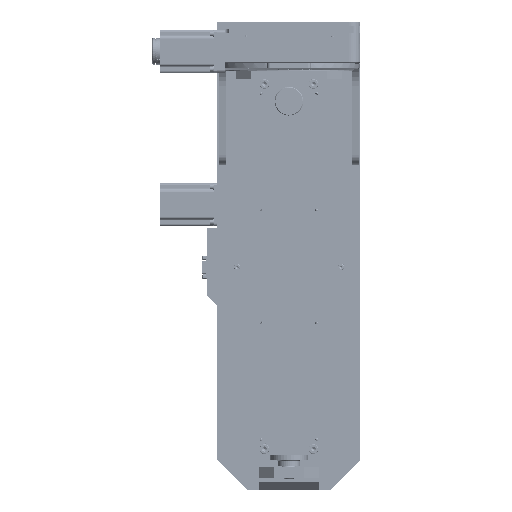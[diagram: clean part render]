
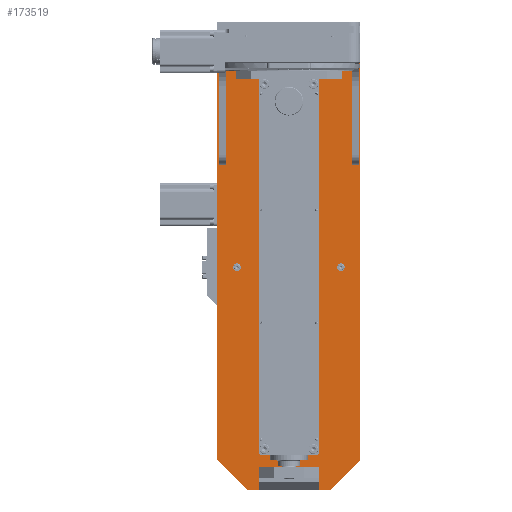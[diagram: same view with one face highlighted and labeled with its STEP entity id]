
A CAD part, top view. The second image highlights one B-rep face of the part: STEP entity #173519.
In plain terms, the highlighted planar face has unit normal (0, 0, 1).
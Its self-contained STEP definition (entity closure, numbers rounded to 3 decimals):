
#5255=LINE($,#263266,#15362);
#5260=LINE($,#263277,#15367);
#5266=LINE($,#263291,#15373);
#5275=LINE($,#263319,#15382);
#5280=LINE($,#263330,#15387);
#5286=LINE($,#263344,#15393);
#5287=LINE($,#263346,#15394);
#5288=LINE($,#263348,#15395);
#5292=LINE($,#263359,#15399);
#5331=LINE($,#263719,#15438);
#5334=LINE($,#263725,#15441);
#5344=LINE($,#263788,#15451);
#5348=LINE($,#263795,#15455);
#7638=LINE($,#288612,#17745);
#7941=LINE($,#291645,#18048);
#10201=LINE($,#314927,#20308);
#10209=LINE($,#314941,#20316);
#10210=LINE($,#314943,#20317);
#15362=VECTOR($,#207066,175.);
#15367=VECTOR($,#207077,10.);
#15373=VECTOR($,#207093,175.);
#15382=VECTOR($,#207116,175.);
#15387=VECTOR($,#207127,10.);
#15393=VECTOR($,#207143,175.);
#15394=VECTOR($,#207146,167.);
#15395=VECTOR($,#207147,1.5);
#15399=VECTOR($,#207155,1.5);
#15438=VECTOR($,#207518,56.569);
#15441=VECTOR($,#207523,56.569);
#15451=VECTOR($,#207591,15.);
#15455=VECTOR($,#207595,15.);
#17745=VECTOR($,#216395,567.);
#18048=VECTOR($,#218116,567.);
#20308=VECTOR($,#226400,80.);
#20316=VECTOR($,#226412,30.);
#20317=VECTOR($,#226415,30.);
#31089=PLANE($,#189590);
#39867=FACE_BOUND($,#62264,.T.);
#39868=FACE_BOUND($,#62265,.T.);
#39869=FACE_BOUND($,#62266,.T.);
#39870=FACE_BOUND($,#62267,.T.);
#39871=FACE_BOUND($,#62268,.T.);
#39872=FACE_BOUND($,#62269,.T.);
#48820=FACE_OUTER_BOUND($,#62263,.T.);
#62263=EDGE_LOOP($,(#151670,#151671,#151672,#151673,#151674,#151675,#151676,
#151677,#151678,#151679,#151680,#151681,#151682,#151683,#151684,#151685,
#151686,#151687));
#62264=EDGE_LOOP($,(#151688));
#62265=EDGE_LOOP($,(#151689));
#62266=EDGE_LOOP($,(#151690));
#62267=EDGE_LOOP($,(#151691));
#62268=EDGE_LOOP($,(#151692));
#62269=EDGE_LOOP($,(#151693));
#69617=CIRCLE($,#182088,5.);
#69618=CIRCLE($,#182090,5.);
#69620=CIRCLE($,#182094,5.);
#69621=CIRCLE($,#182096,5.);
#69624=CIRCLE($,#182101,5.);
#69627=CIRCLE($,#182106,5.);
#79850=VERTEX_POINT($,#263263);
#79851=VERTEX_POINT($,#263265);
#79854=VERTEX_POINT($,#263275);
#79857=VERTEX_POINT($,#263289);
#79868=VERTEX_POINT($,#263316);
#79869=VERTEX_POINT($,#263318);
#79872=VERTEX_POINT($,#263328);
#79875=VERTEX_POINT($,#263342);
#79876=VERTEX_POINT($,#263347);
#79881=VERTEX_POINT($,#263357);
#80003=VERTEX_POINT($,#263717);
#80004=VERTEX_POINT($,#263718);
#80005=VERTEX_POINT($,#263723);
#80006=VERTEX_POINT($,#263724);
#80008=VERTEX_POINT($,#263732);
#80009=VERTEX_POINT($,#263735);
#80011=VERTEX_POINT($,#263741);
#80012=VERTEX_POINT($,#263744);
#80015=VERTEX_POINT($,#263752);
#80018=VERTEX_POINT($,#263760);
#80030=VERTEX_POINT($,#263787);
#80033=VERTEX_POINT($,#263793);
#87485=VERTEX_POINT($,#314924);
#87486=VERTEX_POINT($,#314926);
#98512=EDGE_CURVE($,#79851,#79850,#5255,.T.);
#98518=EDGE_CURVE($,#79850,#79854,#5260,.T.);
#98525=EDGE_CURVE($,#79854,#79857,#5266,.T.);
#98538=EDGE_CURVE($,#79869,#79868,#5275,.T.);
#98544=EDGE_CURVE($,#79868,#79872,#5280,.T.);
#98551=EDGE_CURVE($,#79872,#79875,#5286,.T.);
#98552=EDGE_CURVE($,#79875,#79851,#5287,.T.);
#98553=EDGE_CURVE($,#79876,#79869,#5288,.T.);
#98559=EDGE_CURVE($,#79857,#79881,#5292,.T.);
#98693=EDGE_CURVE($,#80003,#80004,#5331,.T.);
#98696=EDGE_CURVE($,#80005,#80006,#5334,.T.);
#98700=EDGE_CURVE($,#80008,#80008,#69617,.T.);
#98701=EDGE_CURVE($,#80009,#80009,#69618,.T.);
#98703=EDGE_CURVE($,#80011,#80011,#69620,.T.);
#98704=EDGE_CURVE($,#80012,#80012,#69621,.T.);
#98707=EDGE_CURVE($,#80015,#80015,#69624,.T.);
#98710=EDGE_CURVE($,#80018,#80018,#69627,.T.);
#98723=EDGE_CURVE($,#80030,#80004,#5344,.T.);
#98727=EDGE_CURVE($,#80005,#80033,#5348,.T.);
#103953=EDGE_CURVE($,#80003,#79876,#7638,.T.);
#104795=EDGE_CURVE($,#79881,#80006,#7941,.T.);
#109750=EDGE_CURVE($,#87486,#87485,#10201,.T.);
#109758=EDGE_CURVE($,#87485,#80030,#10209,.T.);
#109759=EDGE_CURVE($,#80033,#87486,#10210,.T.);
#151670=ORIENTED_EDGE($,*,*,#109759,.T.);
#151671=ORIENTED_EDGE($,*,*,#109750,.T.);
#151672=ORIENTED_EDGE($,*,*,#109758,.T.);
#151673=ORIENTED_EDGE($,*,*,#98723,.T.);
#151674=ORIENTED_EDGE($,*,*,#98693,.F.);
#151675=ORIENTED_EDGE($,*,*,#103953,.T.);
#151676=ORIENTED_EDGE($,*,*,#98553,.T.);
#151677=ORIENTED_EDGE($,*,*,#98538,.T.);
#151678=ORIENTED_EDGE($,*,*,#98544,.T.);
#151679=ORIENTED_EDGE($,*,*,#98551,.T.);
#151680=ORIENTED_EDGE($,*,*,#98552,.T.);
#151681=ORIENTED_EDGE($,*,*,#98512,.T.);
#151682=ORIENTED_EDGE($,*,*,#98518,.T.);
#151683=ORIENTED_EDGE($,*,*,#98525,.T.);
#151684=ORIENTED_EDGE($,*,*,#98559,.T.);
#151685=ORIENTED_EDGE($,*,*,#104795,.T.);
#151686=ORIENTED_EDGE($,*,*,#98696,.F.);
#151687=ORIENTED_EDGE($,*,*,#98727,.T.);
#151688=ORIENTED_EDGE($,*,*,#98700,.T.);
#151689=ORIENTED_EDGE($,*,*,#98701,.T.);
#151690=ORIENTED_EDGE($,*,*,#98703,.T.);
#151691=ORIENTED_EDGE($,*,*,#98704,.T.);
#151692=ORIENTED_EDGE($,*,*,#98707,.T.);
#151693=ORIENTED_EDGE($,*,*,#98710,.T.);
#173519=ADVANCED_FACE($,(#48820,#39867,#39868,#39869,#39870,#39871,#39872),
#31089,.T.);
#182088=AXIS2_PLACEMENT_3D($,#263733,#207532,#207533);
#182090=AXIS2_PLACEMENT_3D($,#263736,#207536,#207537);
#182094=AXIS2_PLACEMENT_3D($,#263742,#207544,#207545);
#182096=AXIS2_PLACEMENT_3D($,#263745,#207548,#207549);
#182101=AXIS2_PLACEMENT_3D($,#263753,#207558,#207559);
#182106=AXIS2_PLACEMENT_3D($,#263761,#207568,#207569);
#189590=AXIS2_PLACEMENT_3D($,#316869,#227692,#227693);
#207066=DIRECTION($,(0.,-1.,0.));
#207077=DIRECTION($,(-1.,0.,0.));
#207093=DIRECTION($,(0.,1.,0.));
#207116=DIRECTION($,(0.,-1.,0.));
#207127=DIRECTION($,(-1.,0.,0.));
#207143=DIRECTION($,(0.,1.,0.));
#207146=DIRECTION($,(-1.,0.,0.));
#207147=DIRECTION($,(-1.,0.,0.));
#207155=DIRECTION($,(-1.,0.,0.));
#207518=DIRECTION($,(-0.707,-0.707,0.));
#207523=DIRECTION($,(-0.707,0.707,0.));
#207532=DIRECTION('center_axis',(0.,0.,
-1.));
#207533=DIRECTION('ref_axis',(1.,0.,0.));
#207536=DIRECTION('center_axis',(0.,0.,
-1.));
#207537=DIRECTION('ref_axis',(1.,0.,0.));
#207544=DIRECTION('center_axis',(0.,0.,
-1.));
#207545=DIRECTION('ref_axis',(1.,0.,0.));
#207548=DIRECTION('center_axis',(0.,0.,
-1.));
#207549=DIRECTION('ref_axis',(1.,0.,0.));
#207558=DIRECTION('center_axis',(0.,0.,
-1.));
#207559=DIRECTION('ref_axis',(1.,0.,0.));
#207568=DIRECTION('center_axis',(0.,0.,
-1.));
#207569=DIRECTION('ref_axis',(1.,0.,0.));
#207591=DIRECTION($,(1.,0.,0.));
#207595=DIRECTION($,(1.,0.,0.));
#216395=DIRECTION($,(0.,1.,0.));
#218116=DIRECTION($,(0.,-1.,0.));
#226400=DIRECTION($,(1.,0.,0.));
#226412=DIRECTION($,(0.,-1.,0.));
#226415=DIRECTION($,(0.,1.,0.));
#227692=DIRECTION('center_axis',(0.,0.,
1.));
#227693=DIRECTION('ref_axis',(1.,0.,0.));
#263263=CARTESIAN_POINT('',(34.,-55.629,80.));
#263265=CARTESIAN_POINT('',(34.,119.371,80.));
#263266=CARTESIAN_POINT($,(34.,-57.953,80.));
#263275=CARTESIAN_POINT('',(24.,-55.629,80.));
#263277=CARTESIAN_POINT($,(75.75,-55.629,80.));
#263289=CARTESIAN_POINT('',(24.,119.371,80.));
#263291=CARTESIAN_POINT($,(24.,-57.953,80.));
#263316=CARTESIAN_POINT('',(211.,-55.629,80.));
#263318=CARTESIAN_POINT('',(211.,119.371,80.));
#263319=CARTESIAN_POINT($,(211.,-57.953,80.));
#263328=CARTESIAN_POINT('',(201.,-55.629,80.));
#263330=CARTESIAN_POINT($,(164.25,-55.629,80.));
#263342=CARTESIAN_POINT('',(201.,119.371,80.));
#263344=CARTESIAN_POINT($,(201.,-57.953,80.));
#263346=CARTESIAN_POINT($,(117.5,119.371,80.));
#263347=CARTESIAN_POINT('',(212.5,119.371,80.));
#263348=CARTESIAN_POINT($,(117.5,119.371,80.));
#263357=CARTESIAN_POINT('',(22.5,119.371,80.));
#263359=CARTESIAN_POINT($,(117.5,119.371,80.));
#263717=CARTESIAN_POINT('',(212.5,-447.629,80.));
#263718=CARTESIAN_POINT('',(172.5,-487.629,80.));
#263719=CARTESIAN_POINT($,(246.375,-413.754,80.));
#263723=CARTESIAN_POINT('',(62.5,-487.629,80.));
#263724=CARTESIAN_POINT('',(22.5,-447.629,80.));
#263725=CARTESIAN_POINT($,(-11.375,-413.754,80.));
#263732=CARTESIAN_POINT('',(157.,-131.873,80.));
#263733=CARTESIAN_POINT('Origin',(152.,-131.873,80.));
#263735=CARTESIAN_POINT('',(157.,-251.385,80.));
#263736=CARTESIAN_POINT('Origin',(152.,-251.385,80.));
#263741=CARTESIAN_POINT('',(53.5,-191.629,80.));
#263742=CARTESIAN_POINT('Origin',(48.5,-191.629,80.));
#263744=CARTESIAN_POINT('',(88.,-251.385,80.));
#263745=CARTESIAN_POINT('Origin',(83.,-251.385,80.));
#263752=CARTESIAN_POINT('',(191.5,-191.629,80.));
#263753=CARTESIAN_POINT('Origin',(186.5,-191.629,80.));
#263760=CARTESIAN_POINT('',(88.,-131.873,80.));
#263761=CARTESIAN_POINT('Origin',(83.,-131.873,80.));
#263787=CARTESIAN_POINT('',(157.5,-487.629,80.));
#263788=CARTESIAN_POINT($,(212.5,-487.629,80.));
#263793=CARTESIAN_POINT('',(77.5,-487.629,80.));
#263795=CARTESIAN_POINT($,(212.5,-487.629,80.));
#288612=CARTESIAN_POINT($,(212.5,133.371,80.));
#291645=CARTESIAN_POINT($,(22.5,-487.629,80.));
#314924=CARTESIAN_POINT('',(157.5,-457.629,80.));
#314926=CARTESIAN_POINT('',(77.5,-457.629,80.));
#314927=CARTESIAN_POINT($,(117.5,-457.629,80.));
#314941=CARTESIAN_POINT($,(157.5,-317.379,80.));
#314943=CARTESIAN_POINT($,(77.5,-317.379,80.));
#316869=CARTESIAN_POINT('Origin',(117.5,-177.129,80.));
